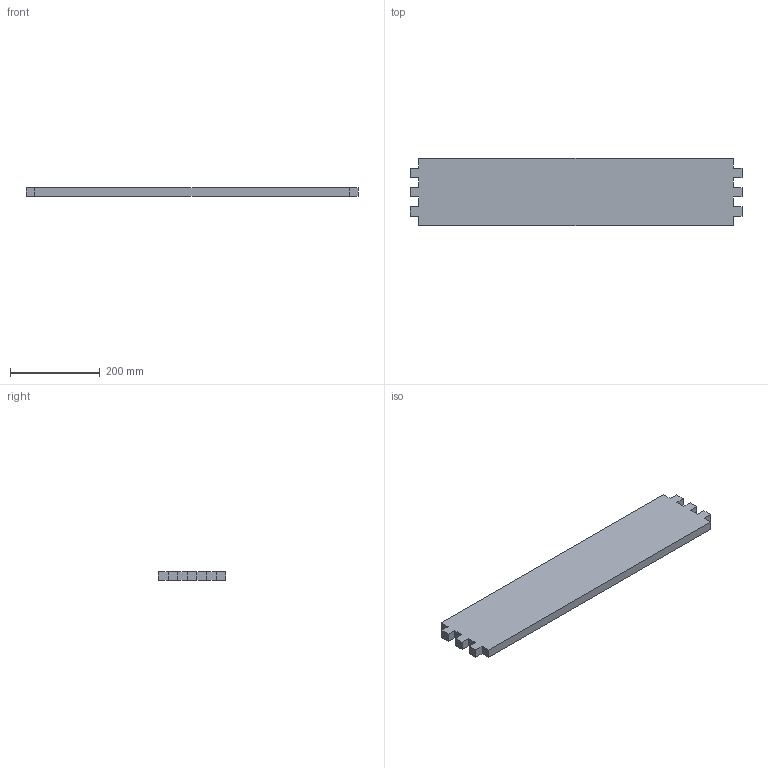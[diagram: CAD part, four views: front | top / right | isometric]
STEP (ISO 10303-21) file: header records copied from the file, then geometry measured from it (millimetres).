
FILE_DESCRIPTION(/* description */ (''),/* implementation_level */ '2;1');
FILE_NAME(/* name */ 'plancheCOTE',/* time_stamp */ '2019-11-27T11:33:20+01:00',/* author */ (''),/* organization */ (''),/* preprocessor_version */ 'ST-DEVELOPER v8',/* originating_system */ '',/* authorisation */ '');
FILE_SCHEMA (('CONFIG_CONTROL_DESIGN'));
Length unit declared in the file: millimetre
Products named in the file (1): 3
Bounding box: 740 x 150 x 20 mm (x, y, z)
Volume: 2150400 mm3; surface area: 253840 mm2
Topology: 1 solids, 1 shells, 30 faces, 112 edges, 56 vertices
Faces by surface type: bspline 30
Entity records: 1058 total; most frequent: CARTESIAN_POINT 372, ORIENTED_EDGE 168, EDGE_CURVE 84, B_SPLINE_CURVE_WITH_KNOTS 84, VERTEX_POINT 56, ADVANCED_FACE 30, FACE_OUTER_BOUND 30, EDGE_LOOP 30
